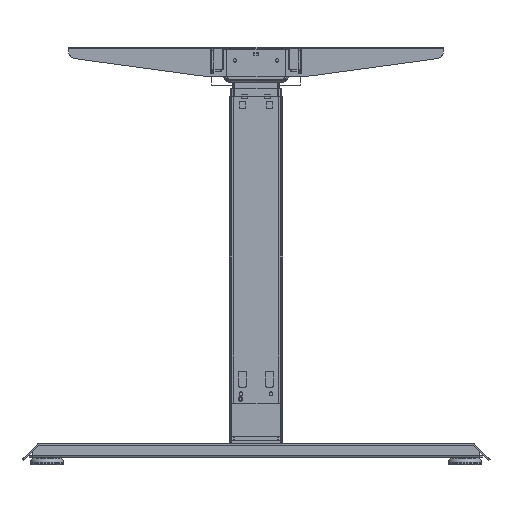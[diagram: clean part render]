
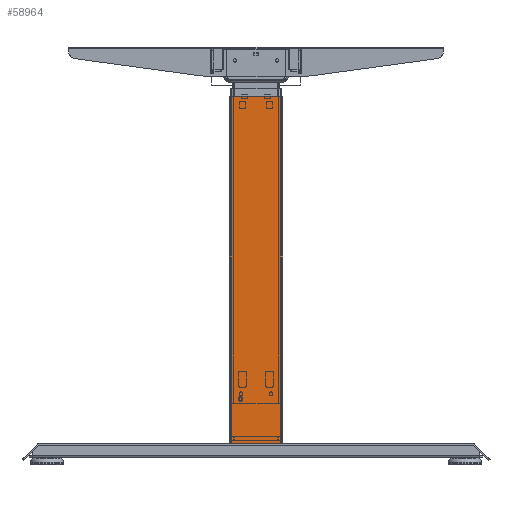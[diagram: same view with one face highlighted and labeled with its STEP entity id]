
A CAD part, left-side view. The second image highlights one B-rep face of the part: STEP entity #58964.
In plain terms, the highlighted planar face has unit normal (-1, 0, 0).
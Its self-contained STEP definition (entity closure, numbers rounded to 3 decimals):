
#2466=PLANE('',#64792);
#7534=LINE('',#114374,#12854);
#7535=LINE('',#114377,#12855);
#7536=LINE('',#114379,#12856);
#7537=LINE('',#114381,#12857);
#12854=VECTOR('',#80520,1000.);
#12855=VECTOR('',#80521,1000.);
#12856=VECTOR('',#80522,1000.);
#12857=VECTOR('',#80523,1000.);
#29186=ORIENTED_EDGE('',*,*,#38458,.T.);
#29187=ORIENTED_EDGE('',*,*,#38459,.T.);
#29188=ORIENTED_EDGE('',*,*,#38460,.T.);
#29189=ORIENTED_EDGE('',*,*,#38461,.T.);
#38458=EDGE_CURVE('',#44302,#44303,#7534,.T.);
#38459=EDGE_CURVE('',#44303,#44304,#7535,.T.);
#38460=EDGE_CURVE('',#44304,#44305,#7536,.T.);
#38461=EDGE_CURVE('',#44305,#44302,#7537,.T.);
#44302=VERTEX_POINT('',#114375);
#44303=VERTEX_POINT('',#114376);
#44304=VERTEX_POINT('',#114378);
#44305=VERTEX_POINT('',#114380);
#50714=EDGE_LOOP('',(#29186,#29187,#29188,#29189));
#54418=FACE_BOUND('',#50714,.T.);
#58964=ADVANCED_FACE('',(#54418),#2466,.T.);
#64792=AXIS2_PLACEMENT_3D('',#114373,#80518,#80519);
#80518=DIRECTION('',(-1.,0.,0.));
#80519=DIRECTION('',(0.,-1.,0.));
#80520=DIRECTION('',(0.,0.,1.));
#80521=DIRECTION('',(0.,1.,0.));
#80522=DIRECTION('',(0.,0.,-1.));
#80523=DIRECTION('',(0.,-1.,0.));
#114373=CARTESIAN_POINT('',(-1088.,-42.022,251.961));
#114374=CARTESIAN_POINT('',(-1088.,-79.022,-19.041));
#114375=CARTESIAN_POINT('',(-1088.,-79.022,-19.041));
#114376=CARTESIAN_POINT('',(-1088.,-79.022,499.963));
#114377=CARTESIAN_POINT('',(-1088.,-79.022,499.963));
#114378=CARTESIAN_POINT('',(-1088.,-5.022,499.963));
#114379=CARTESIAN_POINT('',(-1088.,-5.022,499.963));
#114380=CARTESIAN_POINT('',(-1088.,-5.022,-19.041));
#114381=CARTESIAN_POINT('',(-1088.,-5.022,-19.041));
